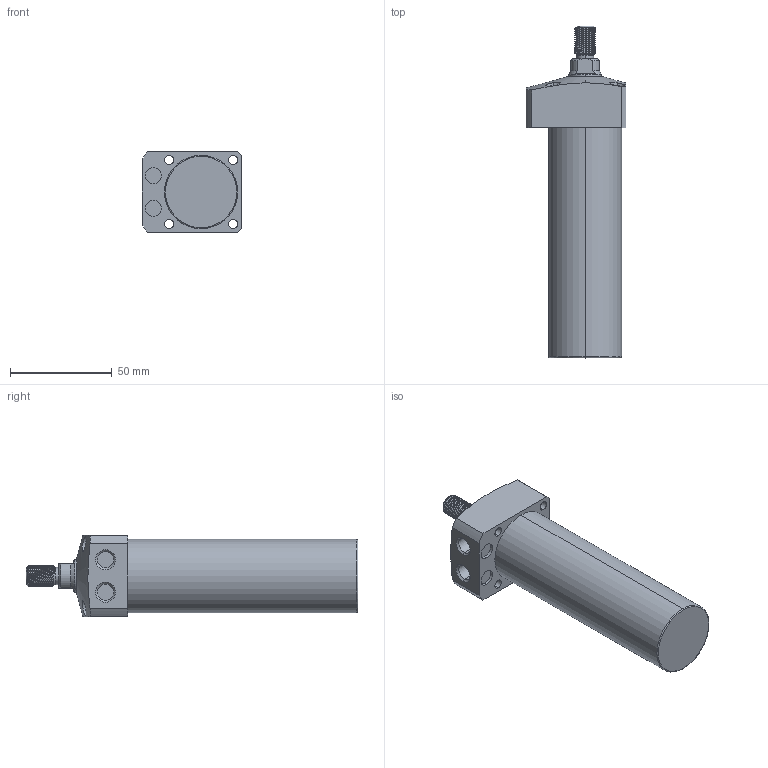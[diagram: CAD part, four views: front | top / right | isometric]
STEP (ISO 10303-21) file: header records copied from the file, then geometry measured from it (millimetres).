
FILE_DESCRIPTION (( 'STEP AP203' ), '1' );
FILE_NAME ('CLL-036CT-090.STEP', '2020-01-08T08:51:47', ( '' ), ( '' ), 'SwSTEP 2.0', 'SolidWorks 2015', '' );
FILE_SCHEMA (( 'CONFIG_CONTROL_DESIGN' ));
Length unit declared in the file: millimetre
Products named in the file (1): CLL-036CT-090
Bounding box: 49 x 163 x 40 mm (x, y, z)
Volume: 157927.2 mm3; surface area: 23432.8 mm2
Topology: 1 solids, 1 shells, 103 faces, 256 edges, 166 vertices
Faces by surface type: cylinder 61, plane 23, cone 15, torus 2, bspline 2
Entity records: 5002 total; most frequent: CARTESIAN_POINT 2606, ORIENTED_EDGE 512, DIRECTION 457, EDGE_CURVE 256, AXIS2_PLACEMENT_3D 184, VERTEX_POINT 166, EDGE_LOOP 122, ADVANCED_FACE 103
